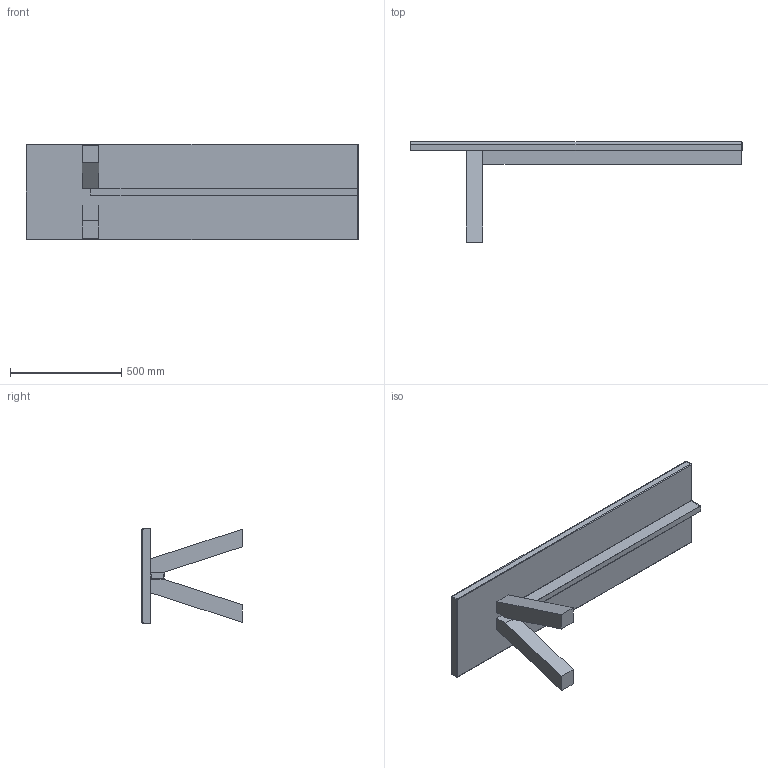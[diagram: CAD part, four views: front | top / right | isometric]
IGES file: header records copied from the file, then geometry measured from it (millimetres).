
Start section: SolidWorks IGES file using NURBS representation for surfaces
Global section: file name: W:\01-VICCARBE\PRODUCTOS\45-TRESTLE\04-MODELADOS (PLANOS)\WEB\IGES\viccarbe_trestle_end seat.IGS; native system: SolidWorks 2013; preprocessor: SolidWorks 2013; author: Usuario; date: 140917.173648; units: millimetre
Bounding box: 1490 x 450 x 430 mm (x, y, z)
Surface area: 2109409.2 mm2 (no closed solid volume)
Topology: 0 solids, 0 shells, 52 faces, 216 edges, 212 vertices
Faces by surface type: bspline 52
